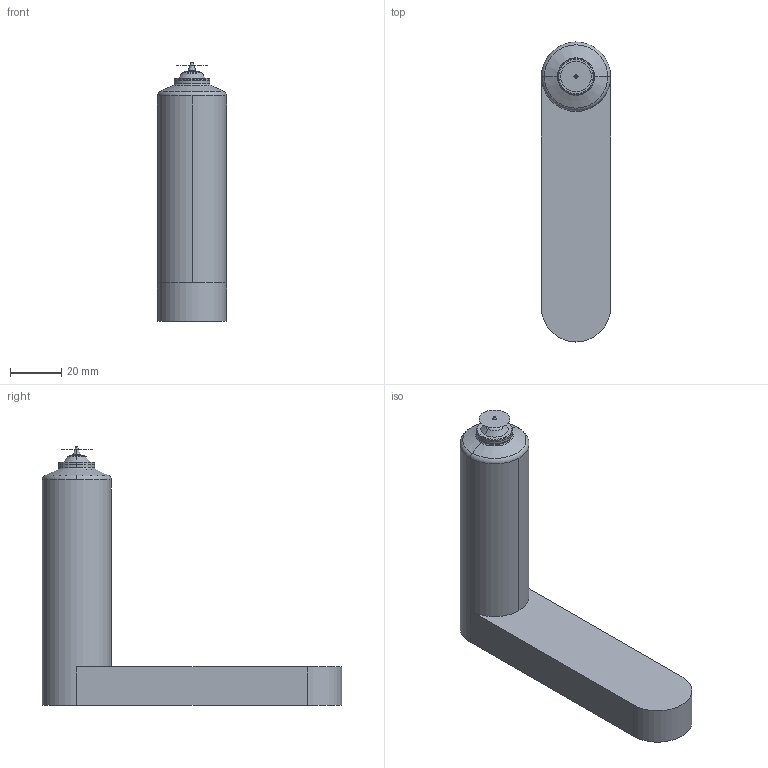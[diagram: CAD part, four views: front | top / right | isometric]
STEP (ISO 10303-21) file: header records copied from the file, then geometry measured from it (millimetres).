
FILE_DESCRIPTION (( 'STEP AP214' ), '1' );
FILE_NAME ('09E-03-100-VTW-C.STEP', '2023-01-03T12:43:36', ( '' ), ( '' ), 'SwSTEP 2.0', 'SolidWorks 2018', '' );
FILE_SCHEMA (( 'AUTOMOTIVE_DESIGN' ));
Length unit declared in the file: millimetre
Products named in the file (3): 09E-03-100-VTW-C; nozzle_09E-03-100-VTW-C; cutout_09E-03-100-VTW-C
Assembly tree (2 placements, depth 2):
  09E-03-100-VTW-C
    nozzle_09E-03-100-VTW-C
    cutout_09E-03-100-VTW-C
Bounding box: 27 x 117 x 101 mm (x, y, z)
Volume: 89145.7 mm3; surface area: 41841.6 mm2
Topology: 1 solids, 4 shells, 269 faces, 697 edges, 438 vertices
Faces by surface type: cylinder 116, plane 74, cone 49, torus 26, bspline 4
Entity records: 12267 total; most frequent: CARTESIAN_POINT 5439, DIRECTION 1466, ORIENTED_EDGE 1392, EDGE_CURVE 697, AXIS2_PLACEMENT_3D 586, VERTEX_POINT 438, CIRCLE 315, VECTOR 294
